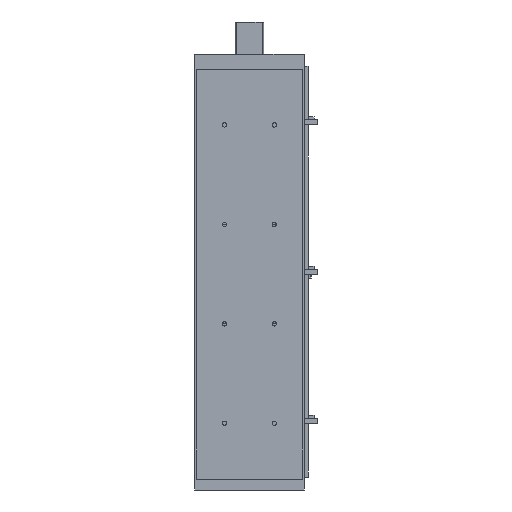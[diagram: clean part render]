
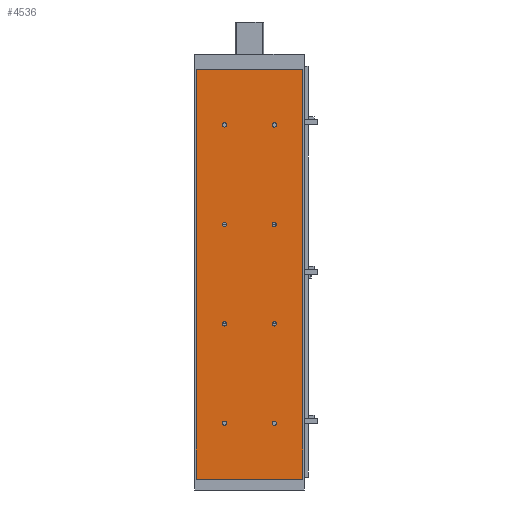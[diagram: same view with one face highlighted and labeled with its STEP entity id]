
A CAD part, front view. The second image highlights one B-rep face of the part: STEP entity #4536.
In plain terms, the highlighted planar face has unit normal (0, -1, 0).
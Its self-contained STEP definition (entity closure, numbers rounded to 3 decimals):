
#3162=CARTESIAN_POINT('',(-107.,0.0,824.0));
#3163=VERTEX_POINT('',#3162);
#3170=CARTESIAN_POINT('',(107.,0.0,824.0));
#3171=VERTEX_POINT('',#3170);
#3172=CARTESIAN_POINT('',(107.,0.0,824.0));
#3173=DIRECTION('',(-1.0,0.0,0.0));
#3174=VECTOR('',#3173,214.);
#3175=LINE('',#3172,#3174);
#3176=EDGE_CURVE('',#3171,#3163,#3175,.T.);
#3506=CARTESIAN_POINT('',(107.,0.0,0.0));
#3507=VERTEX_POINT('',#3506);
#3514=CARTESIAN_POINT('',(-107.,0.0,0.0));
#3515=VERTEX_POINT('',#3514);
#3516=CARTESIAN_POINT('',(-107.,0.0,0.0));
#3517=DIRECTION('',(1.0,0.0,0.0));
#3518=VECTOR('',#3517,214.);
#3519=LINE('',#3516,#3518);
#3520=EDGE_CURVE('',#3515,#3507,#3519,.T.);
#3557=CARTESIAN_POINT('',(-54.249,0.0,712.));
#3558=VERTEX_POINT('',#3557);
#3559=CARTESIAN_POINT('',(-49.999,0.0,712.));
#3560=DIRECTION('',(0.0,1.0,0.0));
#3561=DIRECTION('',(1.0,0.0,0.0));
#3562=AXIS2_PLACEMENT_3D('',#3559,#3560,#3561);
#3563=CIRCLE('',#3562,4.25);
#3564=EDGE_CURVE('',#3558,#3558,#3563,.T.);
#3736=CARTESIAN_POINT('',(45.751,0.0,712.));
#3737=VERTEX_POINT('',#3736);
#3738=CARTESIAN_POINT('',(50.001,0.0,712.));
#3739=DIRECTION('',(0.0,1.0,0.0));
#3740=DIRECTION('',(1.0,0.0,0.0));
#3741=AXIS2_PLACEMENT_3D('',#3738,#3739,#3740);
#3742=CIRCLE('',#3741,4.25);
#3743=EDGE_CURVE('',#3737,#3737,#3742,.T.);
#3777=CARTESIAN_POINT('',(-54.249,0.0,312.));
#3778=VERTEX_POINT('',#3777);
#3779=CARTESIAN_POINT('',(-49.999,0.0,312.));
#3780=DIRECTION('',(0.0,1.0,0.0));
#3781=DIRECTION('',(1.0,0.0,0.0));
#3782=AXIS2_PLACEMENT_3D('',#3779,#3780,#3781);
#3783=CIRCLE('',#3782,4.25);
#3784=EDGE_CURVE('',#3778,#3778,#3783,.T.);
#3956=CARTESIAN_POINT('',(45.751,0.0,312.));
#3957=VERTEX_POINT('',#3956);
#3958=CARTESIAN_POINT('',(50.001,0.0,312.));
#3959=DIRECTION('',(0.0,1.0,0.0));
#3960=DIRECTION('',(1.0,0.0,0.0));
#3961=AXIS2_PLACEMENT_3D('',#3958,#3959,#3960);
#3962=CIRCLE('',#3961,4.25);
#3963=EDGE_CURVE('',#3957,#3957,#3962,.T.);
#3997=CARTESIAN_POINT('',(-54.249,0.0,112.));
#3998=VERTEX_POINT('',#3997);
#3999=CARTESIAN_POINT('',(-49.999,0.0,112.));
#4000=DIRECTION('',(0.0,1.0,0.0));
#4001=DIRECTION('',(1.0,0.0,0.0));
#4002=AXIS2_PLACEMENT_3D('',#3999,#4000,#4001);
#4003=CIRCLE('',#4002,4.25);
#4004=EDGE_CURVE('',#3998,#3998,#4003,.T.);
#4176=CARTESIAN_POINT('',(45.751,0.0,112.));
#4177=VERTEX_POINT('',#4176);
#4178=CARTESIAN_POINT('',(50.001,0.0,112.));
#4179=DIRECTION('',(0.0,1.0,0.0));
#4180=DIRECTION('',(1.0,0.0,0.0));
#4181=AXIS2_PLACEMENT_3D('',#4178,#4179,#4180);
#4182=CIRCLE('',#4181,4.25);
#4183=EDGE_CURVE('',#4177,#4177,#4182,.T.);
#4286=CARTESIAN_POINT('',(45.751,0.0,512.));
#4287=VERTEX_POINT('',#4286);
#4288=CARTESIAN_POINT('',(50.001,0.0,512.));
#4289=DIRECTION('',(0.0,1.0,0.0));
#4290=DIRECTION('',(1.0,0.0,0.0));
#4291=AXIS2_PLACEMENT_3D('',#4288,#4289,#4290);
#4292=CIRCLE('',#4291,4.25);
#4293=EDGE_CURVE('',#4287,#4287,#4292,.T.);
#4396=CARTESIAN_POINT('',(-54.249,0.0,512.));
#4397=VERTEX_POINT('',#4396);
#4398=CARTESIAN_POINT('',(-49.999,0.0,512.));
#4399=DIRECTION('',(0.0,1.0,0.0));
#4400=DIRECTION('',(1.0,0.0,0.0));
#4401=AXIS2_PLACEMENT_3D('',#4398,#4399,#4400);
#4402=CIRCLE('',#4401,4.25);
#4403=EDGE_CURVE('',#4397,#4397,#4402,.T.);
#4423=CARTESIAN_POINT('',(107.,0.0,0.0));
#4424=DIRECTION('',(0.0,0.0,1.0));
#4425=VECTOR('',#4424,824.0);
#4426=LINE('',#4423,#4425);
#4427=EDGE_CURVE('',#3507,#3171,#4426,.T.);
#4445=CARTESIAN_POINT('',(-107.,0.0,0.0));
#4446=DIRECTION('',(0.0,0.0,1.0));
#4447=VECTOR('',#4446,824.0);
#4448=LINE('',#4445,#4447);
#4449=EDGE_CURVE('',#3515,#3163,#4448,.T.);
#4501=CARTESIAN_POINT('',(107.,0.0,0.0));
#4502=DIRECTION('',(0.0,-1.0,0.0));
#4503=DIRECTION('',(0.0,0.0,-1.0));
#4504=AXIS2_PLACEMENT_3D('',#4501,#4502,#4503);
#4505=PLANE('',#4504);
#4506=ORIENTED_EDGE('',*,*,#3176,.T.);
#4507=ORIENTED_EDGE('',*,*,#4449,.F.);
#4508=ORIENTED_EDGE('',*,*,#3520,.T.);
#4509=ORIENTED_EDGE('',*,*,#4427,.T.);
#4510=EDGE_LOOP('',(#4506,#4507,#4508,#4509));
#4511=FACE_OUTER_BOUND('',#4510,.T.);
#4512=ORIENTED_EDGE('',*,*,#3564,.T.);
#4513=EDGE_LOOP('',(#4512));
#4514=FACE_BOUND('',#4513,.T.);
#4515=ORIENTED_EDGE('',*,*,#3743,.T.);
#4516=EDGE_LOOP('',(#4515));
#4517=FACE_BOUND('',#4516,.T.);
#4518=ORIENTED_EDGE('',*,*,#3784,.T.);
#4519=EDGE_LOOP('',(#4518));
#4520=FACE_BOUND('',#4519,.T.);
#4521=ORIENTED_EDGE('',*,*,#3963,.T.);
#4522=EDGE_LOOP('',(#4521));
#4523=FACE_BOUND('',#4522,.T.);
#4524=ORIENTED_EDGE('',*,*,#4004,.T.);
#4525=EDGE_LOOP('',(#4524));
#4526=FACE_BOUND('',#4525,.T.);
#4527=ORIENTED_EDGE('',*,*,#4183,.T.);
#4528=EDGE_LOOP('',(#4527));
#4529=FACE_BOUND('',#4528,.T.);
#4530=ORIENTED_EDGE('',*,*,#4293,.T.);
#4531=EDGE_LOOP('',(#4530));
#4532=FACE_BOUND('',#4531,.T.);
#4533=ORIENTED_EDGE('',*,*,#4403,.T.);
#4534=EDGE_LOOP('',(#4533));
#4535=FACE_BOUND('',#4534,.T.);
#4536=ADVANCED_FACE('',(#4511,#4514,#4517,#4520,#4523,#4526,#4529,#4532,#4535),#4505,.T.);
